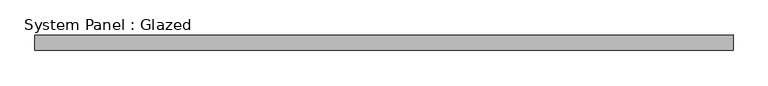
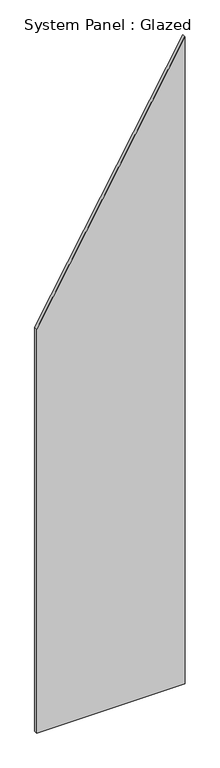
"""IFC4 building model written with IfcOpenShell, lengths in millimetres: plate geometry, System Panel : Glazed."""

from ifc_helpers import new_model, si_unit, frame, origin, place, context, project, spatial, polyline, outline, extrude, source, transform, mapped, element, save


def system_panel_glazed_92a7b472(model_context):
    return source(origin(), model_context, "Body", "SweptSolid", [
        extrude(outline(polyline([(0.0, -575.0012523), (0.0, 575.0012523), (5301.6703879, 575.0012523), (3309.8076211, -575.0012523), (0.0, -575.0012523)])), frame((0.0, 47.5, 0.0), z_axis=(0.0, 1.0, 0.0), x_axis=(0.0, 0.0, 1.0)), (0.0, 0.0, 1.0), 25.0),
    ])


if __name__ == "__main__":
    model = new_model("IFC4")
    model_context = context("Model", 3, world=origin())
    ifc_project = project(units=[si_unit("LENGTHUNIT", "METRE", prefix="MILLI")], contexts=[model_context])
    site = spatial("IfcSite", under=ifc_project)
    building = spatial("IfcBuilding", under=site)
    placement = place(None, origin())
    system_panel_glazed_shape = system_panel_glazed_92a7b472(model_context)
    element("IfcPlate", 1, ObjectType="System Panel : Glazed", at=placement, inside=building, context=model_context, shape_type="MappedRepresentation", body=[
        mapped(system_panel_glazed_shape, transform((0.0, 0.0, 0.0), x_axis=(1.0, 0.0, 0.0), y_axis=(0.0, 1.0, 0.0), z_axis=(0.0, 0.0, 1.0))),
    ])
    save(model, "model.ifc")
